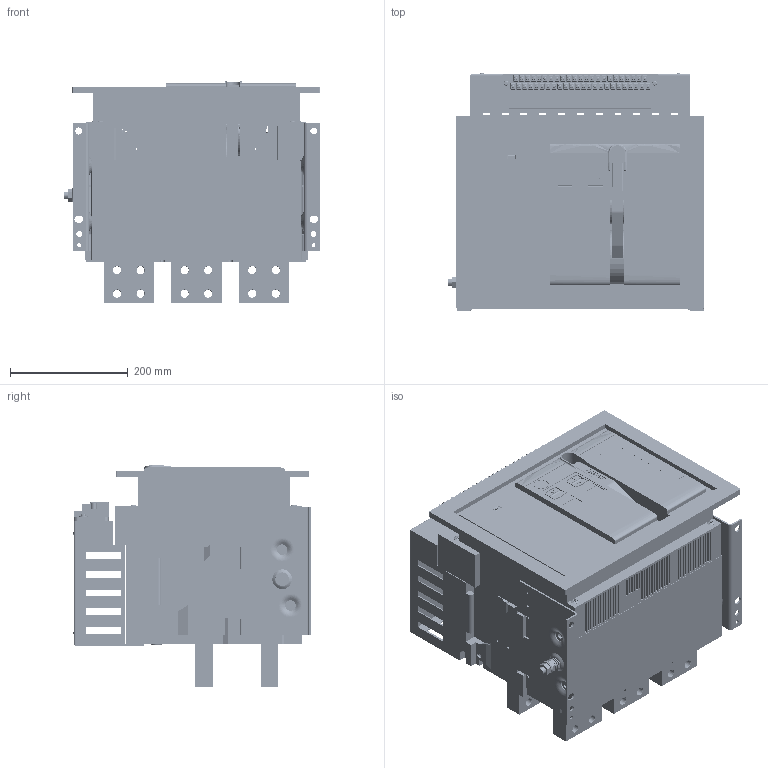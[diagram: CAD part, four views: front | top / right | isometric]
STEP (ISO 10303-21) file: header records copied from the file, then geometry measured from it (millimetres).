
FILE_DESCRIPTION (( 'STEP AP214' ), '1' );
FILE_NAME ('TGW1N-3200 F 3P 2900-3200A.STEP', '2026-06-02T08:59:53', ( '' ), ( '' ), 'SwSTEP 2.0', 'SolidWorks 2024', '' );
FILE_SCHEMA (( 'AUTOMOTIVE_DESIGN' ));
Length unit declared in the file: millimetre
Products named in the file (33): MANIFOLD_SOLID_BREP_170_1_1_1_1_1.stP; 111111111_2_1_1_1_1_1.stP; 8TZD_282_1271_AF1_1_1_1_1_1_1.stP; 8TZD_282_1271_AF0_1_1_1_1_1_1.stP; MANIFOLD_SOLID_BREP_171_1_1_1_1_1.stP; 8TZD_253_1322_1_1_1_1_1_1.stP; 8TZD_282_1272_AF0_1_1_1_1_1_1.stP; MANIFOLD_SOLID_BREP_165_1_1_1_1_1.stP; 3200A3P-GDSP_ASM_1_ASM_1_ASM_1__ASM_1.stP; TENGEN_Рамка_3200-6300_Fixed.stp; 8TZD_253_1324_1_1_1_1_1_1.stP; 3200ZHAOKE_ASM_2_1_ASM_1_ASM_1__ASM_1.stP; GB_T9074_4-M6X80_4_1_1_1_1.stP; MANIFOLD_SOLID_BREP_168_1_1_1_1_1.stP; 8TZD_321_1011_1_1_1_1_1_1.stP; TENGEN_TGW1N-3200_0001_ASM_ASM__ASM_1.stP; 8TZD_860_6288_1_1_1_1_1_1.stP; 2000SB_1_1_1_1_1_1.stP; 8TZD_156_6063.stp; 8TZD_235_1114_1_1_1_1_1_1.stP; MANIFOLD_SOLID_BREP_167_1_1_1_1_1.stP; 3200A3P-GDSP_ASM_1_ASM_1_1_ASM__ASM_1.stP; TGW1N-3200 F 3P 2900-3200A; 8TZD_253_1325_1_1_1_1_1_1.stP; BOJ3B645A41J6GW_ASM_1_ASM_1_ASM_ASM_1.stP; 8TZD_087_6007.stp; 5TZD_005_6016_ASM_1_1_ASM_1_ASM_ASM_1.stP; TENGEN_Рамка_3200-6300_Fixed; 8TZD_005_6110_1_1_1_1_1_1.stP; MANIFOLD_SOLID_BREP_169_1_1_1_1_1.stP; ASM0001_ASM_1_ASM_1_ASM_1_ASM_1.stP; TENGEN_TGW1N-3200_0001_ASM_1_AS_ASM_1.stP; TENGEN_TGW1N-3200_3P_2900-3200A_F .stP
Assembly tree (35 placements, depth 9):
  TGW1N-3200 F 3P 2900-3200A
    TENGEN_TGW1N-3200_3P_2900-3200A_F .stP
      TENGEN_TGW1N-3200_0001_ASM_ASM__ASM_1.stP
        TENGEN_TGW1N-3200_0001_ASM_1_AS_ASM_1.stP
          3200A3P-GDSP_ASM_1_ASM_1_1_ASM__ASM_1.stP
            3200A3P-GDSP_ASM_1_ASM_1_ASM_1__ASM_1.stP
              BOJ3B645A41J6GW_ASM_1_ASM_1_ASM_ASM_1.stP
                MANIFOLD_SOLID_BREP_165_1_1_1_1_1.stP
                MANIFOLD_SOLID_BREP_167_1_1_1_1_1.stP
                MANIFOLD_SOLID_BREP_168_1_1_1_1_1.stP
                MANIFOLD_SOLID_BREP_169_1_1_1_1_1.stP
                MANIFOLD_SOLID_BREP_170_1_1_1_1_1.stP
                MANIFOLD_SOLID_BREP_171_1_1_1_1_1.stP
            ASM0001_ASM_1_ASM_1_ASM_1_ASM_1.stP
              3200ZHAOKE_ASM_2_1_ASM_1_ASM_1__ASM_1.stP
                5TZD_005_6016_ASM_1_1_ASM_1_ASM_ASM_1.stP
                  8TZD_005_6110_1_1_1_1_1_1.stP
                  8TZD_253_1322_1_1_1_1_1_1.stP
                  8TZD_282_1272_AF0_1_1_1_1_1_1.stP
                  8TZD_235_1114_1_1_1_1_1_1.stP
                  8TZD_321_1011_1_1_1_1_1_1.stP
                  8TZD_282_1271_AF0_1_1_1_1_1_1.stP
                  8TZD_282_1271_AF1_1_1_1_1_1_1.stP
                  8TZD_253_1324_1_1_1_1_1_1.stP
                  8TZD_253_1325_1_1_1_1_1_1.stP
                  8TZD_860_6288_1_1_1_1_1_1.stP
                111111111_2_1_1_1_1_1.stP
                2000SB_1_1_1_1_1_1.stP
            GB_T9074_4-M6X80_4_1_1_1_1.stP  x4
    TENGEN_Рамка_3200-6300_Fixed
      TENGEN_Рамка_3200-6300_Fixed.stp
        8TZD_087_6007.stp
        8TZD_156_6063.stp
Bounding box: 436.9 x 404 x 376.5 mm (x, y, z)
Volume: 21524465.5 mm3; surface area: 2257722.8 mm2
Topology: 20 solids, 28 shells, 5929 faces, 16151 edges, 10236 vertices
Faces by surface type: plane 3823, cylinder 1371, bspline 409, cone 163, torus 93, sphere 70
Entity records: 253650 total; most frequent: CARTESIAN_POINT 108509, ORIENTED_EDGE 31246, DIRECTION 28352, EDGE_CURVE 15625, LINE 10578, VECTOR 10578, VERTEX_POINT 10068, AXIS2_PLACEMENT_3D 8887
